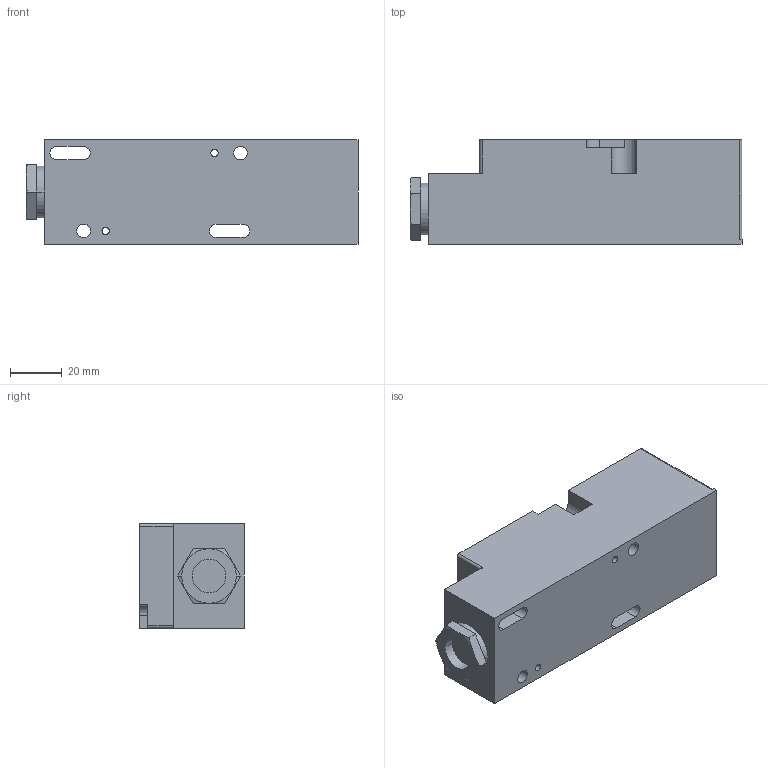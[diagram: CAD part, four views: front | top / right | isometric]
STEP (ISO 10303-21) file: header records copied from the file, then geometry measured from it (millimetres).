
FILE_DESCRIPTION( ( '' ), '1' );
FILE_NAME( '//expscmdclustefs.cadenas.external/client_exchange/iodir/jobs/output/wkb43199461_no0/STEP/IM0020_2_03.stp', '2012-03-21T10:37:01', ( '' ), ( '' ), ' ', ' ', ' ' );
FILE_SCHEMA( ( 'CONFIG_CONTROL_DESIGN' ) );
Length unit declared in the file: millimetre
Products named in the file (1): 1
Bounding box: 128 x 40.4 x 40.3 mm (x, y, z)
Volume: 177976.8 mm3; surface area: 26810.7 mm2
Topology: 1 solids, 1 shells, 87 faces, 226 edges, 148 vertices
Faces by surface type: plane 44, cylinder 35, cone 8
Entity records: 2731 total; most frequent: CARTESIAN_POINT 486, DIRECTION 469, ORIENTED_EDGE 452, EDGE_CURVE 226, AXIS2_PLACEMENT_3D 167, VERTEX_POINT 148, LINE 135, VECTOR 135
